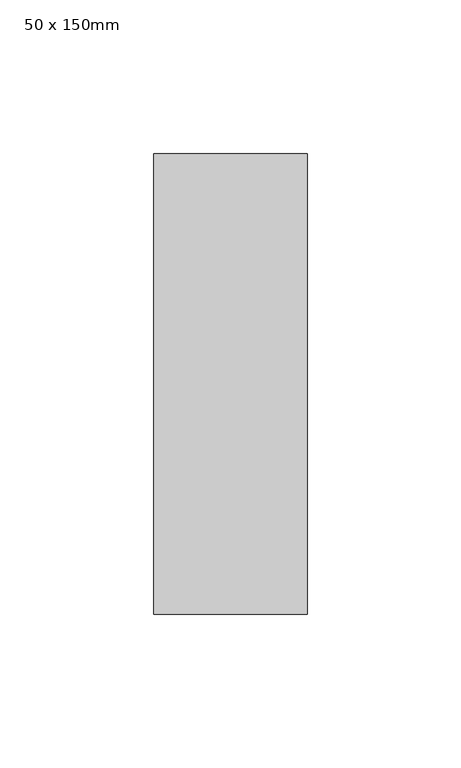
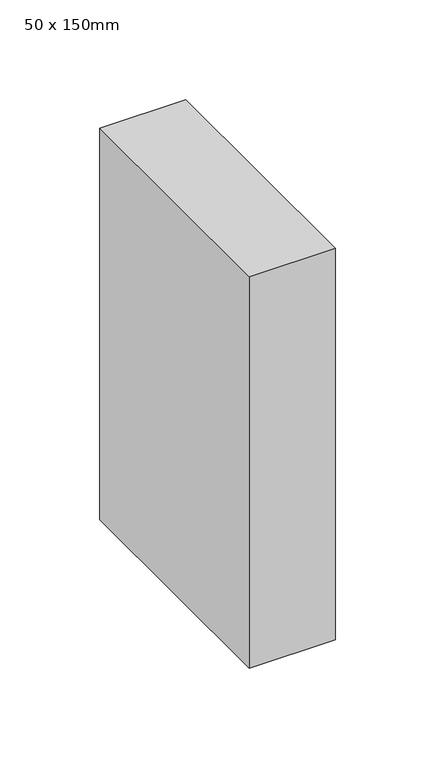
"""IFC4 building model written with IfcOpenShell, lengths in millimetres: member geometry, Прямоугольный импост : 50 x 150mm."""

import ifcopenshell
import ifcopenshell.guid

model = None  # the IFC model being written
_history = None  # IfcOwnerHistory: only IFC2X3 demands one
_inside = {}  # id of a spatial element -> (the spatial element, [elements in it])
_under = {}  # id of a project, library or spatial element -> (it, [spatial elements below it])
_declared = {}  # id of a project -> (the project, [libraries it declares])
_typed = {}  # id of a type object -> (the type object, [elements of that type])
_made_of = {}  # id of a material, layer set ... -> (it, [elements and type objects made of it])


def new_model(schema):
    """Start an empty IFC model of exactly this schema.

    Asked for "IFC4X3", IfcOpenShell would pick the latest addendum, in which some entities
    have other attributes; the version numbers below select the first issue.
    IFC2X3 requires an IfcOwnerHistory on every rooted entity: one is made here for all.
    """
    global model, _history
    if schema == "IFC4X3":
        model = ifcopenshell.file(schema_version=(4, 3, 0, 0))
    else:
        model = ifcopenshell.file(schema=schema)
    _inside.clear()
    _under.clear()
    _declared.clear()
    _typed.clear()
    _made_of.clear()
    _history = None
    if model.schema == "IFC2X3":
        org = make("IfcOrganization", Name="unknown")
        user = make(
            "IfcPersonAndOrganization",
            ThePerson=make("IfcPerson", FamilyName="unknown"),
            TheOrganization=org,
        )
        app = make(
            "IfcApplication",
            ApplicationDeveloper=org,
            Version="unknown",
            ApplicationFullName="unknown",
            ApplicationIdentifier="unknown",
        )
        _history = make(
            "IfcOwnerHistory",
            OwningUser=user,
            OwningApplication=app,
            ChangeAction="ADDED",
            CreationDate=0,
        )
    return model


def make(cls, **values):
    """One entity of the class cls with the attributes given. An attribute that is None is left unset."""
    return model.create_entity(
        cls, **{name: value for name, value in values.items() if value is not None}
    )


def rooted(cls, **values):
    """An entity with a GlobalId (a new one), such as an element, a storey or a relation."""
    return make(cls, GlobalId=ifcopenshell.guid.new(), OwnerHistory=_history, **values)


def si_unit(unit_type, name, prefix=None):
    """IfcSIUnit, for example si_unit("LENGTHUNIT", "METRE", prefix="MILLI")."""
    return make("IfcSIUnit", UnitType=unit_type, Prefix=prefix, Name=name)


def assignment(units):
    """IfcUnitAssignment: the units of a project."""
    return None if units is None else make("IfcUnitAssignment", Units=units)


def point(xyz):
    """IfcCartesianPoint."""
    return None if xyz is None else make("IfcCartesianPoint", Coordinates=xyz)


def direction(xyz):
    """IfcDirection."""
    return None if xyz is None else make("IfcDirection", DirectionRatios=xyz)


def frame(location, z_axis=None, x_axis=None):
    """IfcAxis2Placement3D, a coordinate frame: its origin and axes. An axis left out is left unset."""
    return make(
        "IfcAxis2Placement3D",
        Location=point(location),
        Axis=direction(z_axis),
        RefDirection=direction(x_axis),
    )


def origin():
    """The frame at (0, 0, 0) with its axes left unset."""
    return frame((0.0, 0.0, 0.0))


def place(relative_to, where):
    """IfcLocalPlacement: puts the frame where relative to a parent placement (None: the world)."""
    return make(
        "IfcLocalPlacement", PlacementRelTo=relative_to, RelativePlacement=where
    )


def context(
    kind, dimensions, precision=None, world=None, true_north=None, identifier=None
):
    """IfcGeometricRepresentationContext, for example the 3D "Model" context."""
    return make(
        "IfcGeometricRepresentationContext",
        ContextIdentifier=identifier,
        ContextType=kind,
        CoordinateSpaceDimension=dimensions,
        Precision=precision,
        WorldCoordinateSystem=world,
        TrueNorth=true_north,
    )


def project(units=None, contexts=None):
    """IfcProject with its units and contexts."""
    return rooted(
        "IfcProject",
        Name="project",
        RepresentationContexts=contexts,
        UnitsInContext=assignment(units),
    )


def spatial(cls, under=None, at=None, **own):
    """A site, building, storey or space (cls), placed at a placement, below another one or the project."""
    s = rooted(cls, ObjectPlacement=at, **own)
    if under is not None:
        _under.setdefault(under.id(), (under, []))[1].append(s)
    return s


def polyline(points):
    """IfcPolyline through the points."""
    return make("IfcPolyline", Points=[point(p) for p in points])


def outline(outer, holes=None, kind="AREA"):
    """IfcArbitraryClosedProfileDef: a profile drawn as a closed curve; with holes, ...WithVoids."""
    if holes is None:
        return make("IfcArbitraryClosedProfileDef", ProfileType=kind, OuterCurve=outer)
    return make(
        "IfcArbitraryProfileDefWithVoids",
        ProfileType=kind,
        OuterCurve=outer,
        InnerCurves=holes,
    )


def extrude(swept, where, along, depth):
    """IfcExtrudedAreaSolid: the profile swept, set in the frame where, extruded along a direction by depth."""
    return make(
        "IfcExtrudedAreaSolid",
        SweptArea=swept,
        Position=where,
        ExtrudedDirection=direction(along),
        Depth=depth,
    )


def shape(context_of_items, identifier, shape_type, items):
    """IfcShapeRepresentation: the items that make up one representation, for example the "Body"."""
    return make(
        "IfcShapeRepresentation",
        ContextOfItems=context_of_items,
        RepresentationIdentifier=identifier,
        RepresentationType=shape_type,
        Items=items,
    )


def source(mapping_origin, context_of_items, identifier, shape_type, items):
    """IfcRepresentationMap: a shape defined once, which mapped items show again and again."""
    return make(
        "IfcRepresentationMap",
        MappingOrigin=mapping_origin,
        MappedRepresentation=shape(context_of_items, identifier, shape_type, items),
    )


def transform(
    local_origin,
    x_axis=None,
    y_axis=None,
    z_axis=None,
    scale=None,
    scale2=None,
    scale3=None,
    uniform=True,
):
    """IfcCartesianTransformationOperator3D, or its non-uniform kind. x_axis, y_axis, z_axis: its Axis1, 2, 3."""
    if uniform:
        return make(
            "IfcCartesianTransformationOperator3D",
            Axis1=direction(x_axis),
            Axis2=direction(y_axis),
            LocalOrigin=point(local_origin),
            Scale=scale,
            Axis3=direction(z_axis),
        )
    return make(
        "IfcCartesianTransformationOperator3DnonUniform",
        Axis1=direction(x_axis),
        Axis2=direction(y_axis),
        LocalOrigin=point(local_origin),
        Scale=scale,
        Axis3=direction(z_axis),
        Scale2=scale2,
        Scale3=scale3,
    )


def mapped(mapping_source, mapping_target):
    """IfcMappedItem: shows the shape of a source again, moved by a transform."""
    return make(
        "IfcMappedItem", MappingSource=mapping_source, MappingTarget=mapping_target
    )


def made_of(thing, what):
    """Note that an element or type object is made of a material, layer set ...; save() writes the relation."""
    if what is not None:
        _made_of.setdefault(what.id(), (what, []))[1].append(thing)
    return thing


def element(
    cls,
    number,
    at=None,
    inside=None,
    cuts=None,
    type_object=None,
    material=None,
    context=None,
    identifier="Body",
    shape_type=None,
    held_by="IfcProductDefinitionShape",
    body=None,
    shapes=None,
    **own,
):
    """One element of the class cls, such as IfcWall. Its Tag is "e" and its number.

    at: its placement. inside: the storey or other place that contains it. cuts: it is an
    opening in that element (IfcRelVoidsElement). A single representation is given by context,
    identifier, shape_type and body (its items); several are given by shapes. held_by: the class
    of the entity that holds the representations. save() writes the other relations.
    """
    e = rooted(cls, Tag="e%d" % number, ObjectPlacement=at, **own)
    if body is not None:
        shapes = [shape(context, identifier, shape_type, body)]
    if shapes is not None:
        e.Representation = make(held_by, Representations=shapes)
    if inside is not None:
        _inside.setdefault(inside.id(), (inside, []))[1].append(e)
    if cuts is not None:
        rooted(
            "IfcRelVoidsElement", RelatingBuildingElement=cuts, RelatedOpeningElement=e
        )
    if type_object is not None:
        _typed.setdefault(type_object.id(), (type_object, []))[1].append(e)
    return made_of(e, material)


def aggregate(whole, parts):
    """IfcRelAggregates: a whole, such as a stair, and the parts it consists of."""
    return rooted("IfcRelAggregates", RelatingObject=whole, RelatedObjects=parts)


def save(model, path):
    """Write the relations noted so far, then the file.

    IfcRelAggregates (storeys below a building ...), IfcRelContainedInSpatialStructure (elements
    in a storey), IfcRelDefinesByType, IfcRelAssociatesMaterial and IfcRelDeclares: one each for
    every whole, place, type object, material and project.
    """
    for whole, parts in _under.values():
        aggregate(whole, parts)
    for where, things in _inside.values():
        rooted(
            "IfcRelContainedInSpatialStructure",
            RelatedElements=things,
            RelatingStructure=where,
        )
    for kind, things in _typed.values():
        rooted("IfcRelDefinesByType", RelatedObjects=things, RelatingType=kind)
    for what, things in _made_of.values():
        rooted("IfcRelAssociatesMaterial", RelatedObjects=things, RelatingMaterial=what)
    for by, libraries in _declared.values():
        rooted("IfcRelDeclares", RelatingContext=by, RelatedDefinitions=libraries)
    model.write(path)


def member_50_x_150mm_b1af7fba(model_context):
    return source(origin(), model_context, "Body", "SweptSolid", [
        extrude(outline(polyline([(0.0, 75.0), (0.0, -75.0), (-50.0, -75.0), (-50.0, 75.0), (0.0, 75.0)])), frame((0.0, 0.0, -240.0), z_axis=(0.0, 0.0, 1.0), x_axis=(1.0, 0.0, 0.0)), (0.0, 0.0, 1.0), 240.0),
    ])


if __name__ == "__main__":
    model = new_model("IFC4")
    model_context = context("Model", 3, world=origin())
    ifc_project = project(units=[si_unit("LENGTHUNIT", "METRE", prefix="MILLI")], contexts=[model_context])
    site = spatial("IfcSite", under=ifc_project)
    building = spatial("IfcBuilding", under=site)
    placement = place(None, origin())
    member_50_x_150mm_shape = member_50_x_150mm_b1af7fba(model_context)
    element("IfcMember", 1, ObjectType="Прямоугольный импост : 50 x 150mm", at=placement, inside=building, context=model_context, shape_type="MappedRepresentation", body=[
        mapped(member_50_x_150mm_shape, transform((0.0, 0.0, 0.0), x_axis=(1.0, 0.0, 0.0), y_axis=(0.0, 1.0, 0.0), z_axis=(0.0, 0.0, 1.0))),
    ])
    save(model, "model.ifc")
